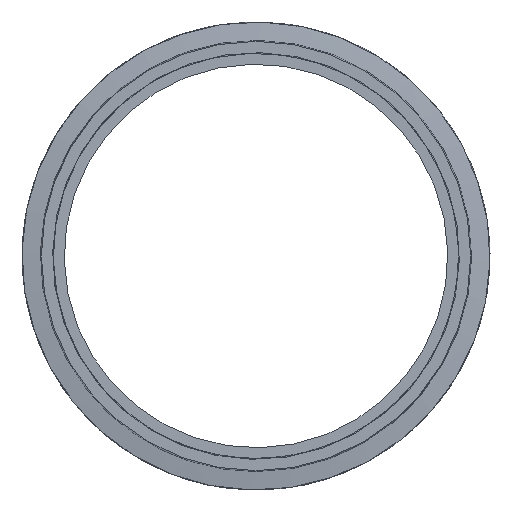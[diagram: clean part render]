
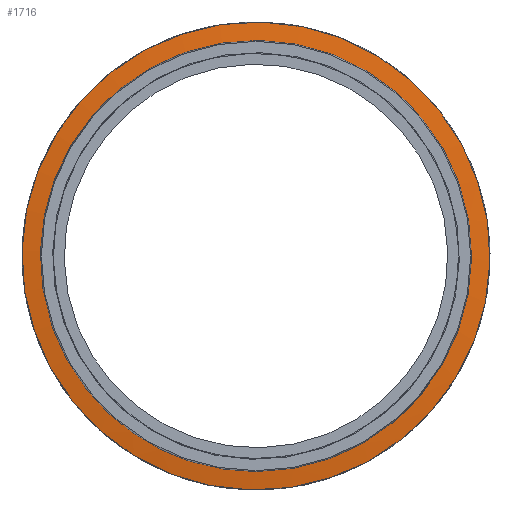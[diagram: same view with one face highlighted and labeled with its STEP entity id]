
A CAD part, left-side view. The second image highlights one B-rep face of the part: STEP entity #1716.
In plain terms, the highlighted conical face has half-angle 83 degrees and reference radius 59.013 mm.
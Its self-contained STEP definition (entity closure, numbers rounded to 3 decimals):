
#114=FACE_BOUND('',#341,.T.);
#195=CONICAL_SURFACE('',#1889,59.013,1.449);
#216=FACE_OUTER_BOUND('',#340,.T.);
#340=EDGE_LOOP('',(#1126,#1127));
#341=EDGE_LOOP('',(#1128));
#500=CIRCLE('',#1883,64.05);
#504=CIRCLE('',#1890,59.013);
#505=CIRCLE('',#1891,59.013);
#702=VERTEX_POINT('',#3344);
#706=VERTEX_POINT('',#3355);
#707=VERTEX_POINT('',#3356);
#880=EDGE_CURVE('',#702,#702,#500,.T.);
#884=EDGE_CURVE('',#706,#707,#504,.T.);
#885=EDGE_CURVE('',#707,#706,#505,.T.);
#1126=ORIENTED_EDGE('',*,*,#884,.F.);
#1127=ORIENTED_EDGE('',*,*,#885,.F.);
#1128=ORIENTED_EDGE('',*,*,#880,.T.);
#1716=ADVANCED_FACE('',(#216,#114),#195,.T.);
#1883=AXIS2_PLACEMENT_3D('',#3345,#2117,#2118);
#1889=AXIS2_PLACEMENT_3D('',#3354,#2129,#2130);
#1890=AXIS2_PLACEMENT_3D('',#3357,#2131,#2132);
#1891=AXIS2_PLACEMENT_3D('',#3358,#2133,#2134);
#2117=DIRECTION('center_axis',(-1.,0.,0.));
#2118=DIRECTION('ref_axis',(0.,-0.878,0.479));
#2129=DIRECTION('center_axis',(1.,0.,0.));
#2130=DIRECTION('ref_axis',(0.,-0.878,0.479));
#2131=DIRECTION('center_axis',(-1.,0.,0.));
#2132=DIRECTION('ref_axis',(0.,-0.878,0.479));
#2133=DIRECTION('center_axis',(-1.,0.,0.));
#2134=DIRECTION('ref_axis',(0.,-0.878,0.479));
#3344=CARTESIAN_POINT('',(-65.406,56.209,-30.707));
#3345=CARTESIAN_POINT('Origin',(-65.406,0.,0.));
#3354=CARTESIAN_POINT('Origin',(-66.025,0.,0.));
#3355=CARTESIAN_POINT('',(-66.025,51.789,-28.292));
#3356=CARTESIAN_POINT('',(-66.025,0.,-59.013));
#3357=CARTESIAN_POINT('Origin',(-66.025,0.,
0.));
#3358=CARTESIAN_POINT('Origin',(-66.025,0.,
0.));
